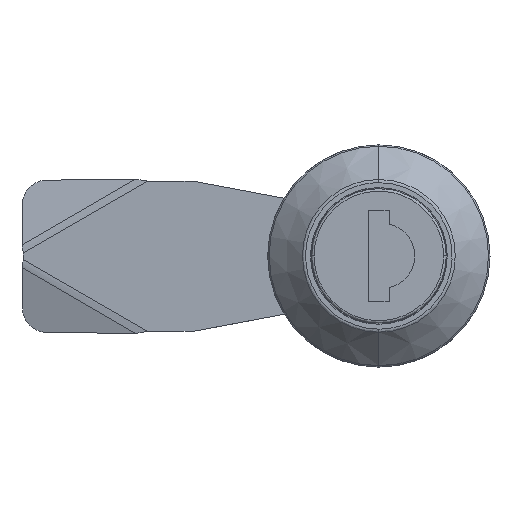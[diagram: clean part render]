
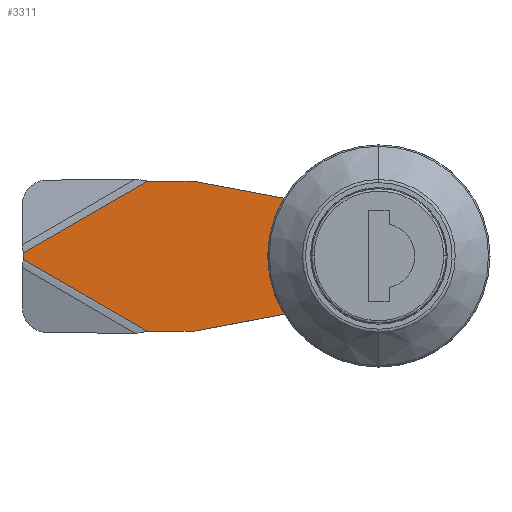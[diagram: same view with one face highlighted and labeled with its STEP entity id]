
A CAD part, top view. The second image highlights one B-rep face of the part: STEP entity #3311.
In plain terms, the highlighted planar face has unit normal (0, 0, 1).
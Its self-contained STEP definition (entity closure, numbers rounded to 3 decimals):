
#92 = LINE ( 'NONE', #8387, #3063 ) ;
#161 = LINE ( 'NONE', #1804, #11559 ) ;
#324 = CARTESIAN_POINT ( 'NONE',  ( 45., -0.433, 3. ) ) ;
#377 = VERTEX_POINT ( 'NONE', #390 ) ;
#390 = CARTESIAN_POINT ( 'NONE',  ( 29.295, -9.5, 3. ) ) ;
#422 = LINE ( 'NONE', #8131, #9690 ) ;
#510 = ORIENTED_EDGE ( 'NONE', *, *, #1583, .T. ) ;
#539 = CARTESIAN_POINT ( 'NONE',  ( 45., 0.433, 3. ) ) ;
#556 = LINE ( 'NONE', #10728, #10113 ) ;
#587 = CARTESIAN_POINT ( 'NONE',  ( 10.463, 7.043, 3. ) ) ;
#759 = DIRECTION ( 'NONE',  ( 1., 0., 0. ) ) ;
#802 = CIRCLE ( 'NONE', #1981, 8.5 ) ;
#1098 = CARTESIAN_POINT ( 'NONE',  ( 4.05, 4.05, 3. ) ) ;
#1105 = LINE ( 'NONE', #10765, #5603 ) ;
#1184 = CARTESIAN_POINT ( 'NONE',  ( 23.5, 9.5, 3. ) ) ;
#1320 = CARTESIAN_POINT ( 'NONE',  ( 23.5, -9.5, 3. ) ) ;
#1324 = VERTEX_POINT ( 'NONE', #8619 ) ;
#1347 = DIRECTION ( 'NONE',  ( 0., 0., -1. ) ) ;
#1400 = CARTESIAN_POINT ( 'NONE',  ( 10.463, 7.043, 3. ) ) ;
#1583 = EDGE_CURVE ( 'NONE', #3434, #9712, #1105, .T. ) ;
#1609 = EDGE_CURVE ( 'NONE', #7006, #10184, #802, .T. ) ;
#1790 = ORIENTED_EDGE ( 'NONE', *, *, #6319, .F. ) ;
#1792 = CARTESIAN_POINT ( 'NONE',  ( 4.05, -4.05, 3. ) ) ;
#1804 = CARTESIAN_POINT ( 'NONE',  ( 42., -9.5, 3. ) ) ;
#1811 = AXIS2_PLACEMENT_3D ( 'NONE', #8238, #2881, #9145 ) ;
#1845 = PLANE ( 'NONE',  #11369 ) ;
#1866 = DIRECTION ( 'NONE',  ( 0.983, -0.185, 0. ) ) ;
#1974 = ORIENTED_EDGE ( 'NONE', *, *, #3179, .F. ) ;
#1981 = AXIS2_PLACEMENT_3D ( 'NONE', #6722, #1347, #7616 ) ;
#2019 = LINE ( 'NONE', #2876, #6508 ) ;
#2035 = VECTOR ( 'NONE', #4052, 1000. ) ;
#2097 = CARTESIAN_POINT ( 'NONE',  ( 9.593, -7.033, 3. ) ) ;
#2124 = LINE ( 'NONE', #2731, #3943 ) ;
#2127 = DIRECTION ( 'NONE',  ( -0.987, 0.163, 0. ) ) ;
#2272 = EDGE_CURVE ( 'NONE', #4643, #2814, #9240, .T. ) ;
#2297 = VECTOR ( 'NONE', #7381, 1000. ) ;
#2345 = AXIS2_PLACEMENT_3D ( 'NONE', #5232, #11533, #6139 ) ;
#2521 = EDGE_CURVE ( 'NONE', #1324, #3192, #92, .T. ) ;
#2542 = CARTESIAN_POINT ( 'NONE',  ( -4.05, -4.05, 3. ) ) ;
#2731 = CARTESIAN_POINT ( 'NONE',  ( 29.295, 9.5, 3. ) ) ;
#2746 = DIRECTION ( 'NONE',  ( 0., 0., -1. ) ) ;
#2814 = VERTEX_POINT ( 'NONE', #2542 ) ;
#2876 = CARTESIAN_POINT ( 'NONE',  ( -4.05, 4.05, 3. ) ) ;
#2881 = DIRECTION ( 'NONE',  ( 0., 0., 1. ) ) ;
#2930 = CARTESIAN_POINT ( 'NONE',  ( 45., -0.433, 3. ) ) ;
#3063 = VECTOR ( 'NONE', #2127, 1000. ) ;
#3157 = ORIENTED_EDGE ( 'NONE', *, *, #9639, .T. ) ;
#3179 = EDGE_CURVE ( 'NONE', #10184, #3192, #11608, .T. ) ;
#3192 = VERTEX_POINT ( 'NONE', #10587 ) ;
#3293 = CARTESIAN_POINT ( 'NONE',  ( 10., -9.5, 3. ) ) ;
#3311 = ADVANCED_FACE ( 'NONE', ( #3591, #8353 ), #1845, .F. ) ;
#3317 = CIRCLE ( 'NONE', #1811, 2.5 ) ;
#3434 = VERTEX_POINT ( 'NONE', #324 ) ;
#3591 = FACE_BOUND ( 'NONE', #3746, .T. ) ;
#3632 = DIRECTION ( 'NONE',  ( 0.866, -0.5, 0. ) ) ;
#3746 = EDGE_LOOP ( 'NONE', ( #9624, #9554, #9437, #7126 ) ) ;
#3820 = DIRECTION ( 'NONE',  ( -0.866, -0.5, 0. ) ) ;
#3943 = VECTOR ( 'NONE', #3632, 1000. ) ;
#4052 = DIRECTION ( 'NONE',  ( 0., 1., 0. ) ) ;
#4114 = ORIENTED_EDGE ( 'NONE', *, *, #11623, .T. ) ;
#4127 = CARTESIAN_POINT ( 'NONE',  ( -8.5, 0., 3. ) ) ;
#4134 = VECTOR ( 'NONE', #6765, 1000. ) ;
#4198 = DIRECTION ( 'NONE',  ( -1., 0., 0. ) ) ;
#4229 = EDGE_CURVE ( 'NONE', #2814, #8769, #6793, .T. ) ;
#4493 = CARTESIAN_POINT ( 'NONE',  ( 10., -9.5, 3. ) ) ;
#4520 = EDGE_CURVE ( 'NONE', #7006, #11557, #9303, .T. ) ;
#4560 = VERTEX_POINT ( 'NONE', #7491 ) ;
#4580 = ORIENTED_EDGE ( 'NONE', *, *, #2521, .T. ) ;
#4643 = VERTEX_POINT ( 'NONE', #1792 ) ;
#4815 = VERTEX_POINT ( 'NONE', #1184 ) ;
#5232 = CARTESIAN_POINT ( 'NONE',  ( 0., 0., 3. ) ) ;
#5561 = EDGE_CURVE ( 'NONE', #7447, #11557, #11565, .T. ) ;
#5603 = VECTOR ( 'NONE', #11675, 1000. ) ;
#6102 = VERTEX_POINT ( 'NONE', #587 ) ;
#6139 = DIRECTION ( 'NONE',  ( -1., 0., 0. ) ) ;
#6242 = EDGE_LOOP ( 'NONE', ( #510, #6404, #3157, #4114, #9151, #4580, #1974, #9099, #10198, #8777, #6323, #6517, #1790 ) ) ;
#6319 = EDGE_CURVE ( 'NONE', #3434, #377, #6617, .T. ) ;
#6323 = ORIENTED_EDGE ( 'NONE', *, *, #6483, .T. ) ;
#6404 = ORIENTED_EDGE ( 'NONE', *, *, #9792, .F. ) ;
#6483 = EDGE_CURVE ( 'NONE', #7447, #7304, #422, .T. ) ;
#6508 = VECTOR ( 'NONE', #7419, 1000. ) ;
#6517 = ORIENTED_EDGE ( 'NONE', *, *, #7577, .T. ) ;
#6518 = VERTEX_POINT ( 'NONE', #9077 ) ;
#6522 = LINE ( 'NONE', #1400, #4134 ) ;
#6570 = VECTOR ( 'NONE', #11309, 1000. ) ;
#6617 = LINE ( 'NONE', #2930, #8717 ) ;
#6722 = CARTESIAN_POINT ( 'NONE',  ( 0., 0., 3. ) ) ;
#6765 = DIRECTION ( 'NONE',  ( -0.983, -0.185, 0. ) ) ;
#6793 = LINE ( 'NONE', #7691, #2035 ) ;
#6930 = CARTESIAN_POINT ( 'NONE',  ( 10.463, -7.043, 3. ) ) ;
#7006 = VERTEX_POINT ( 'NONE', #11586 ) ;
#7119 = EDGE_CURVE ( 'NONE', #4560, #4643, #9175, .T. ) ;
#7126 = ORIENTED_EDGE ( 'NONE', *, *, #7119, .T. ) ;
#7146 = EDGE_CURVE ( 'NONE', #8769, #4560, #2019, .T. ) ;
#7304 = VERTEX_POINT ( 'NONE', #1320 ) ;
#7381 = DIRECTION ( 'NONE',  ( 0., -1., 0. ) ) ;
#7419 = DIRECTION ( 'NONE',  ( 1., 0., 0. ) ) ;
#7447 = VERTEX_POINT ( 'NONE', #6930 ) ;
#7491 = CARTESIAN_POINT ( 'NONE',  ( 4.05, 4.05, 3. ) ) ;
#7577 = EDGE_CURVE ( 'NONE', #7304, #377, #161, .T. ) ;
#7616 = DIRECTION ( 'NONE',  ( -1., 0., 0. ) ) ;
#7691 = CARTESIAN_POINT ( 'NONE',  ( -4.05, -4.05, 3. ) ) ;
#8131 = CARTESIAN_POINT ( 'NONE',  ( 10.463, -7.043, 3. ) ) ;
#8238 = CARTESIAN_POINT ( 'NONE',  ( 10., 9.5, 3. ) ) ;
#8353 = FACE_OUTER_BOUND ( 'NONE', #6242, .T. ) ;
#8387 = CARTESIAN_POINT ( 'NONE',  ( 9.593, 7.033, 3. ) ) ;
#8447 = CARTESIAN_POINT ( 'NONE',  ( 9.593, -7.033, 3. ) ) ;
#8619 = CARTESIAN_POINT ( 'NONE',  ( 9.593, 7.033, 3. ) ) ;
#8717 = VECTOR ( 'NONE', #3820, 1000. ) ;
#8769 = VERTEX_POINT ( 'NONE', #10234 ) ;
#8777 = ORIENTED_EDGE ( 'NONE', *, *, #5561, .F. ) ;
#9010 = DIRECTION ( 'NONE',  ( -1., 0., 0. ) ) ;
#9077 = CARTESIAN_POINT ( 'NONE',  ( 29.295, 9.5, 3. ) ) ;
#9099 = ORIENTED_EDGE ( 'NONE', *, *, #1609, .F. ) ;
#9145 = DIRECTION ( 'NONE',  ( -1., 0., 0. ) ) ;
#9151 = ORIENTED_EDGE ( 'NONE', *, *, #10523, .F. ) ;
#9175 = LINE ( 'NONE', #1098, #2297 ) ;
#9235 = DIRECTION ( 'NONE',  ( 0.987, 0.163, 0. ) ) ;
#9240 = LINE ( 'NONE', #9485, #6570 ) ;
#9303 = LINE ( 'NONE', #2097, #11434 ) ;
#9437 = ORIENTED_EDGE ( 'NONE', *, *, #7146, .T. ) ;
#9485 = CARTESIAN_POINT ( 'NONE',  ( 4.05, -4.05, 3. ) ) ;
#9554 = ORIENTED_EDGE ( 'NONE', *, *, #4229, .T. ) ;
#9563 = DIRECTION ( 'NONE',  ( 0., 0., 1. ) ) ;
#9624 = ORIENTED_EDGE ( 'NONE', *, *, #2272, .T. ) ;
#9639 = EDGE_CURVE ( 'NONE', #6518, #4815, #556, .T. ) ;
#9690 = VECTOR ( 'NONE', #1866, 1000. ) ;
#9712 = VERTEX_POINT ( 'NONE', #539 ) ;
#9792 = EDGE_CURVE ( 'NONE', #6518, #9712, #2124, .T. ) ;
#10113 = VECTOR ( 'NONE', #10247, 1000. ) ;
#10184 = VERTEX_POINT ( 'NONE', #4127 ) ;
#10198 = ORIENTED_EDGE ( 'NONE', *, *, #4520, .T. ) ;
#10234 = CARTESIAN_POINT ( 'NONE',  ( -4.05, 4.05, 3. ) ) ;
#10247 = DIRECTION ( 'NONE',  ( -1., 0., 0. ) ) ;
#10523 = EDGE_CURVE ( 'NONE', #1324, #6102, #3317, .T. ) ;
#10587 = CARTESIAN_POINT ( 'NONE',  ( 1.383, 8.387, 3. ) ) ;
#10728 = CARTESIAN_POINT ( 'NONE',  ( 42., 9.5, 3. ) ) ;
#10765 = CARTESIAN_POINT ( 'NONE',  ( 45., 6.5, 3. ) ) ;
#10955 = AXIS2_PLACEMENT_3D ( 'NONE', #3293, #9563, #4198 ) ;
#11309 = DIRECTION ( 'NONE',  ( -1., 0., 0. ) ) ;
#11369 = AXIS2_PLACEMENT_3D ( 'NONE', #4493, #2746, #9010 ) ;
#11434 = VECTOR ( 'NONE', #9235, 1000. ) ;
#11533 = DIRECTION ( 'NONE',  ( 0., 0., -1. ) ) ;
#11557 = VERTEX_POINT ( 'NONE', #8447 ) ;
#11559 = VECTOR ( 'NONE', #759, 1000. ) ;
#11565 = CIRCLE ( 'NONE', #10955, 2.5 ) ;
#11586 = CARTESIAN_POINT ( 'NONE',  ( 1.383, -8.387, 3. ) ) ;
#11608 = CIRCLE ( 'NONE', #2345, 8.5 ) ;
#11623 = EDGE_CURVE ( 'NONE', #4815, #6102, #6522, .T. ) ;
#11675 = DIRECTION ( 'NONE',  ( 0., 1., 0. ) ) ;
